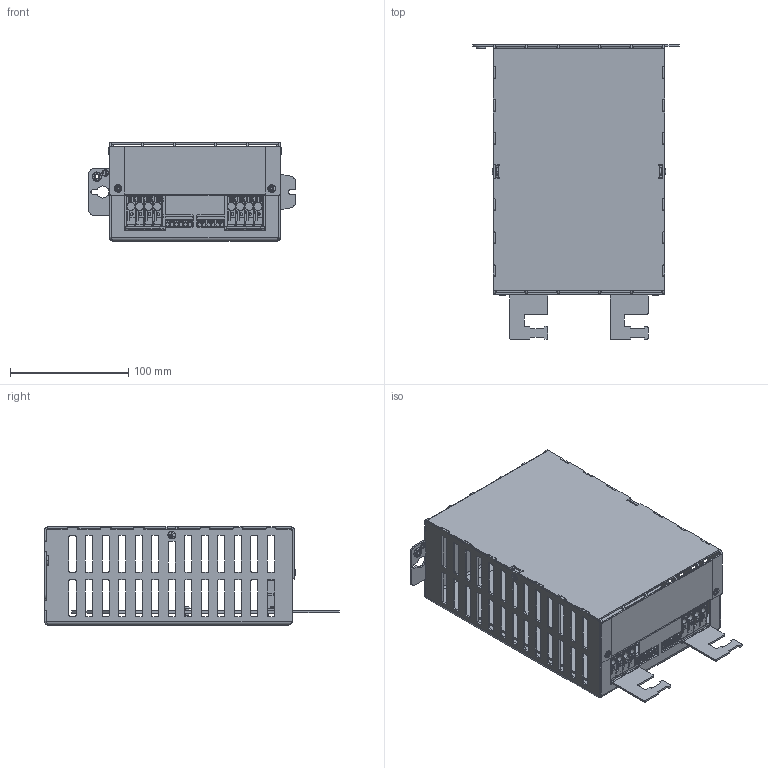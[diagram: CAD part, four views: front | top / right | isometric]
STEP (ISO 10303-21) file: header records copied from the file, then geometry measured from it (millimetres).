
FILE_DESCRIPTION (( 'STEP AP214' ), '1' );
FILE_NAME ('TFC10-2_reduced.STEP', '2021-05-20T09:15:13', ( '' ), ( '' ), 'SwSTEP 2.0', 'SolidWorks 2020', '' );
FILE_SCHEMA (( 'AUTOMOTIVE_DESIGN' ));
Length unit declared in the file: millimetre
Products named in the file (11): TFC10-PCBA_reduced; Mech-PEM_SP-M4-2; Label-TFC10-3k3; Blindniete_3,2x6-3; TFC10-2_PCBA_reduced; TFC10-2_reduced; TFC10-Case-4301; Screw-Torx-Linse-M3x5_M3 - L6; Mech-Abstand-M3-10-PEM_BSO4-M3-10; Screw-Torx-Linse-M3x5_M3 - L5; TFC10-Case
Assembly tree (23 placements, depth 3):
  TFC10-2_reduced
    TFC10-Case
      TFC10-Case-4301
      Mech-Abstand-M3-10-PEM_BSO4-M3-10  x6
      Mech-PEM_SP-M4-2
    TFC10-PCBA_reduced
      TFC10-2_PCBA_reduced
    Blindniete_3,2x6-3  x4
    Screw-Torx-Linse-M3x5_M3 - L6  x5
    Screw-Torx-Linse-M3x5_M3 - L5
    Label-TFC10-3k3
    Mech-PEM_SP-M4-2
Bounding box: 175 x 249.5 x 83 mm (x, y, z)
Volume: 163920.1 mm3; surface area: 306609.8 mm2
Topology: 20 solids, 77 shells, 4176 faces, 12123 edges, 8058 vertices
Faces by surface type: plane 2913, cylinder 1115, bspline 72, cone 40, torus 24, sphere 12
Entity records: 139840 total; most frequent: CARTESIAN_POINT 47684, ORIENTED_EDGE 21962, DIRECTION 12827, EDGE_CURVE 11197, VERTEX_POINT 7471, B_SPLINE_CURVE_WITH_KNOTS 7346, AXIS2_PLACEMENT_3D 5242, EDGE_LOOP 4194
